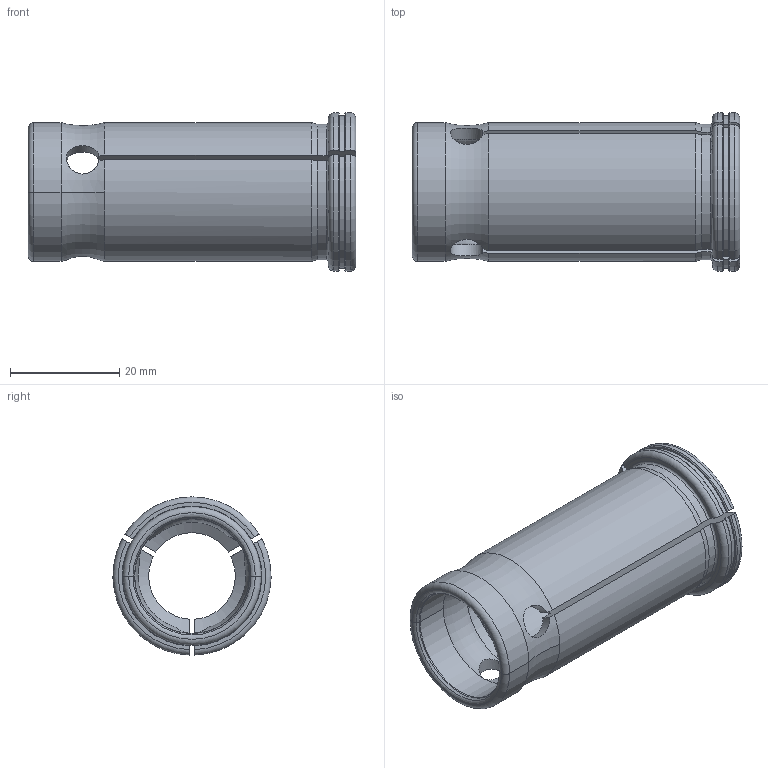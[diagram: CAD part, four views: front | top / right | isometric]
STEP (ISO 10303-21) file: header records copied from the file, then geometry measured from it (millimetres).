
FILE_DESCRIPTION((''),'2;1');
FILE_NAME('K25_4-15_875','2020-09-02T08:16:59',('ssktool'),(''),'CREO PARAMETRIC BY PTC INC, 2018100','CREO PARAMETRIC BY PTC INC, 2018100','');
FILE_SCHEMA(('CONFIG_CONTROL_DESIGN'));
Length unit declared in the file: millimetre
Products named in the file (1): K25_4-15_875
Bounding box: 60 x 29 x 28.99 mm (x, y, z)
Volume: 15850.1 mm3; surface area: 9824.7 mm2
Topology: 1 solids, 1 shells, 89 faces, 252 edges, 163 vertices
Faces by surface type: cylinder 28, torus 26, plane 18, cone 17
Entity records: 3322 total; most frequent: CARTESIAN_POINT 1047, ORIENTED_EDGE 504, DIRECTION 442, EDGE_CURVE 252, AXIS2_PLACEMENT_3D 182, VERTEX_POINT 163, CIRCLE 93, EDGE_LOOP 89
